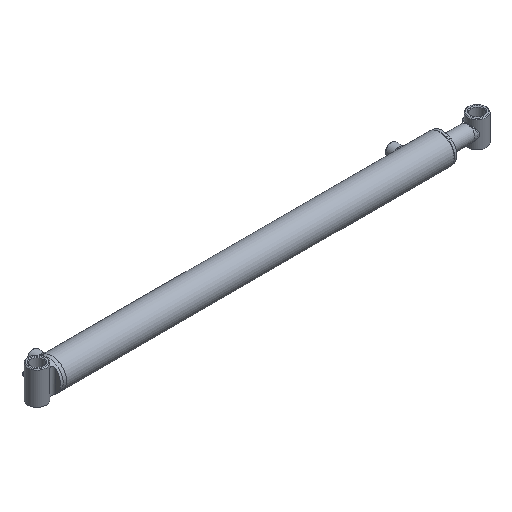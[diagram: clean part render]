
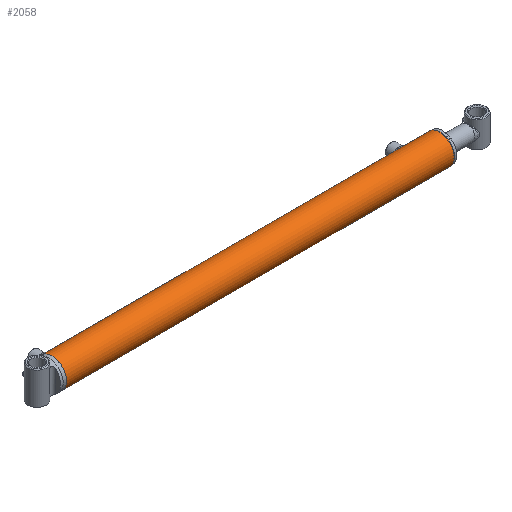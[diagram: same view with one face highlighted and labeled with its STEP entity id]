
A CAD part, isometric view. The second image highlights one B-rep face of the part: STEP entity #2058.
In plain terms, the highlighted cylindrical face has radius 30.163 mm (diameter 60.325 mm), a full revolution.
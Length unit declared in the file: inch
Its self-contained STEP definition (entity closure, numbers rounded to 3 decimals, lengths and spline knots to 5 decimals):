
#377=FACE_BOUND('',#700,.T.);
#378=FACE_BOUND('',#701,.T.);
#379=FACE_BOUND('',#702,.T.);
#500=FACE_OUTER_BOUND('',#699,.T.);
#699=EDGE_LOOP('',(#1636));
#700=EDGE_LOOP('',(#1637));
#701=EDGE_LOOP('',(#1638));
#702=EDGE_LOOP('',(#1639));
#908=CIRCLE('',#2250,1.1875);
#912=CIRCLE('',#2258,1.1875);
#1027=B_SPLINE_CURVE_WITH_KNOTS('',3,(#4746,#4747,#4748,#4749,#4750,#4751,
#4752,#4753,#4754,#4755,#4756,#4757,#4758,#4759,#4760,#4761,#4762,#4763,
#4764,#4765,#4766,#4767,#4768,#4769,#4770,#4771,#4772,#4773,#4774,#4775,
#4776,#4777,#4778,#4779),.UNSPECIFIED.,.T.,.F.,(4,2,2,2,2,2,2,2,2,2,2,2,
2,2,2,2,4),(0.,0.18872,0.37744,0.56616,0.75487,
0.94359,1.1323,1.32102,1.50975,1.69847,
1.88719,2.0759,2.26462,2.45333,2.64205,
2.83077,3.01949),.UNSPECIFIED.);
#1029=B_SPLINE_CURVE_WITH_KNOTS('',3,(#4934,#4935,#4936,#4937,#4938,#4939,
#4940,#4941,#4942,#4943,#4944,#4945,#4946,#4947,#4948,#4949,#4950,#4951,
#4952,#4953,#4954,#4955,#4956,#4957,#4958,#4959,#4960,#4961,#4962,#4963,
#4964,#4965,#4966,#4967),.UNSPECIFIED.,.T.,.F.,(4,2,2,2,2,2,2,2,2,2,2,2,
2,2,2,2,4),(0.,0.18872,0.37744,0.56616,0.75487,
0.94359,1.1323,1.32102,1.50975,1.69847,
1.88719,2.0759,2.26462,2.45333,2.64205,
2.83077,3.01949),.UNSPECIFIED.);
#1098=VERTEX_POINT('',#4745);
#1100=VERTEX_POINT('',#4933);
#1104=VERTEX_POINT('',#4977);
#1108=VERTEX_POINT('',#4989);
#1303=EDGE_CURVE('',#1098,#1098,#1027,.T.);
#1306=EDGE_CURVE('',#1100,#1100,#1029,.T.);
#1310=EDGE_CURVE('',#1104,#1104,#908,.T.);
#1314=EDGE_CURVE('',#1108,#1108,#912,.T.);
#1636=ORIENTED_EDGE('',*,*,#1314,.T.);
#1637=ORIENTED_EDGE('',*,*,#1303,.T.);
#1638=ORIENTED_EDGE('',*,*,#1306,.T.);
#1639=ORIENTED_EDGE('',*,*,#1310,.F.);
#1980=CYLINDRICAL_SURFACE('',#2260,1.1875);
#2058=ADVANCED_FACE('',(#500,#377,#378,#379),#1980,.T.);
#2250=AXIS2_PLACEMENT_3D('',#4978,#2627,#2628);
#2258=AXIS2_PLACEMENT_3D('',#4990,#2643,#2644);
#2260=AXIS2_PLACEMENT_3D('',#4992,#2647,#2648);
#2627=DIRECTION('center_axis',(1.,0.,0.));
#2628=DIRECTION('ref_axis',(0.,-1.,0.));
#2643=DIRECTION('center_axis',(1.,0.,0.));
#2644=DIRECTION('ref_axis',(0.,-1.,0.));
#2647=DIRECTION('center_axis',(1.,0.,0.));
#2648=DIRECTION('ref_axis',(0.,-1.,0.));
#4745=CARTESIAN_POINT('',(13.94094,1.17107,-0.19685));
#4746=CARTESIAN_POINT('Ctrl Pts',(13.94094,1.17107,-0.19685));
#4747=CARTESIAN_POINT('Ctrl Pts',(13.96571,1.17107,-0.19685));
#4748=CARTESIAN_POINT('Ctrl Pts',(13.9921,1.17194,-0.19189));
#4749=CARTESIAN_POINT('Ctrl Pts',(14.04058,1.17505,-0.17179));
#4750=CARTESIAN_POINT('Ctrl Pts',(14.06269,1.17725,-0.15665));
#4751=CARTESIAN_POINT('Ctrl Pts',(14.09759,1.18137,-0.12174));
#4752=CARTESIAN_POINT('Ctrl Pts',(14.11273,1.18356,-0.09964));
#4753=CARTESIAN_POINT('Ctrl Pts',(14.13284,1.18665,-0.05115));
#4754=CARTESIAN_POINT('Ctrl Pts',(14.1378,1.1875,-0.02477));
#4755=CARTESIAN_POINT('Ctrl Pts',(14.1378,1.1875,0.02477));
#4756=CARTESIAN_POINT('Ctrl Pts',(14.13284,1.18665,0.05115));
#4757=CARTESIAN_POINT('Ctrl Pts',(14.11273,1.18356,0.09964));
#4758=CARTESIAN_POINT('Ctrl Pts',(14.09759,1.18137,0.12174));
#4759=CARTESIAN_POINT('Ctrl Pts',(14.06269,1.17725,0.15665));
#4760=CARTESIAN_POINT('Ctrl Pts',(14.04058,1.17505,0.17179));
#4761=CARTESIAN_POINT('Ctrl Pts',(13.9921,1.17194,0.19189));
#4762=CARTESIAN_POINT('Ctrl Pts',(13.96571,1.17107,0.19685));
#4763=CARTESIAN_POINT('Ctrl Pts',(13.91618,1.17107,0.19685));
#4764=CARTESIAN_POINT('Ctrl Pts',(13.88979,1.17194,0.19189));
#4765=CARTESIAN_POINT('Ctrl Pts',(13.84131,1.17505,0.17179));
#4766=CARTESIAN_POINT('Ctrl Pts',(13.8192,1.17725,0.15665));
#4767=CARTESIAN_POINT('Ctrl Pts',(13.7843,1.18137,0.12174));
#4768=CARTESIAN_POINT('Ctrl Pts',(13.76916,1.18356,0.09964));
#4769=CARTESIAN_POINT('Ctrl Pts',(13.74905,1.18665,0.05115));
#4770=CARTESIAN_POINT('Ctrl Pts',(13.74409,1.1875,0.02477));
#4771=CARTESIAN_POINT('Ctrl Pts',(13.74409,1.1875,-0.02477));
#4772=CARTESIAN_POINT('Ctrl Pts',(13.74905,1.18665,-0.05115));
#4773=CARTESIAN_POINT('Ctrl Pts',(13.76916,1.18356,-0.09964));
#4774=CARTESIAN_POINT('Ctrl Pts',(13.7843,1.18137,-0.12174));
#4775=CARTESIAN_POINT('Ctrl Pts',(13.8192,1.17725,-0.15665));
#4776=CARTESIAN_POINT('Ctrl Pts',(13.84131,1.17505,-0.17179));
#4777=CARTESIAN_POINT('Ctrl Pts',(13.88979,1.17194,-0.19189));
#4778=CARTESIAN_POINT('Ctrl Pts',(13.91618,1.17107,-0.19685));
#4779=CARTESIAN_POINT('Ctrl Pts',(13.94094,1.17107,-0.19685));
#4933=CARTESIAN_POINT('',(-15.35827,1.17107,-0.19685));
#4934=CARTESIAN_POINT('Ctrl Pts',(-15.35827,1.17107,-0.19685));
#4935=CARTESIAN_POINT('Ctrl Pts',(-15.3335,1.17107,-0.19685));
#4936=CARTESIAN_POINT('Ctrl Pts',(-15.30712,1.17194,-0.19189));
#4937=CARTESIAN_POINT('Ctrl Pts',(-15.25863,1.17505,-0.17179));
#4938=CARTESIAN_POINT('Ctrl Pts',(-15.23653,1.17725,-0.15665));
#4939=CARTESIAN_POINT('Ctrl Pts',(-15.20162,1.18137,-0.12174));
#4940=CARTESIAN_POINT('Ctrl Pts',(-15.18648,1.18356,-0.09964));
#4941=CARTESIAN_POINT('Ctrl Pts',(-15.16638,1.18665,-0.05115));
#4942=CARTESIAN_POINT('Ctrl Pts',(-15.16142,1.1875,-0.02477));
#4943=CARTESIAN_POINT('Ctrl Pts',(-15.16142,1.1875,0.02477));
#4944=CARTESIAN_POINT('Ctrl Pts',(-15.16638,1.18665,0.05115));
#4945=CARTESIAN_POINT('Ctrl Pts',(-15.18648,1.18356,0.09964));
#4946=CARTESIAN_POINT('Ctrl Pts',(-15.20162,1.18137,0.12174));
#4947=CARTESIAN_POINT('Ctrl Pts',(-15.23653,1.17725,0.15665));
#4948=CARTESIAN_POINT('Ctrl Pts',(-15.25863,1.17505,0.17179));
#4949=CARTESIAN_POINT('Ctrl Pts',(-15.30712,1.17194,0.19189));
#4950=CARTESIAN_POINT('Ctrl Pts',(-15.3335,1.17107,0.19685));
#4951=CARTESIAN_POINT('Ctrl Pts',(-15.38303,1.17107,0.19685));
#4952=CARTESIAN_POINT('Ctrl Pts',(-15.40942,1.17194,0.19189));
#4953=CARTESIAN_POINT('Ctrl Pts',(-15.45791,1.17505,0.17179));
#4954=CARTESIAN_POINT('Ctrl Pts',(-15.48001,1.17725,0.15665));
#4955=CARTESIAN_POINT('Ctrl Pts',(-15.51491,1.18137,0.12174));
#4956=CARTESIAN_POINT('Ctrl Pts',(-15.53006,1.18356,0.09964));
#4957=CARTESIAN_POINT('Ctrl Pts',(-15.55016,1.18665,0.05115));
#4958=CARTESIAN_POINT('Ctrl Pts',(-15.55512,1.1875,0.02477));
#4959=CARTESIAN_POINT('Ctrl Pts',(-15.55512,1.1875,-0.02477));
#4960=CARTESIAN_POINT('Ctrl Pts',(-15.55016,1.18665,-0.05115));
#4961=CARTESIAN_POINT('Ctrl Pts',(-15.53006,1.18356,-0.09964));
#4962=CARTESIAN_POINT('Ctrl Pts',(-15.51491,1.18137,-0.12174));
#4963=CARTESIAN_POINT('Ctrl Pts',(-15.48001,1.17725,-0.15665));
#4964=CARTESIAN_POINT('Ctrl Pts',(-15.45791,1.17505,-0.17179));
#4965=CARTESIAN_POINT('Ctrl Pts',(-15.40942,1.17194,-0.19189));
#4966=CARTESIAN_POINT('Ctrl Pts',(-15.38303,1.17107,-0.19685));
#4967=CARTESIAN_POINT('Ctrl Pts',(-15.35827,1.17107,-0.19685));
#4977=CARTESIAN_POINT('',(15.94882,1.1875,0.));
#4978=CARTESIAN_POINT('Origin',(15.94882,0.,0.));
#4989=CARTESIAN_POINT('',(-15.78494,1.1875,0.));
#4990=CARTESIAN_POINT('Origin',(-15.78494,0.,0.));
#4992=CARTESIAN_POINT('Origin',(0.,0.,0.));
